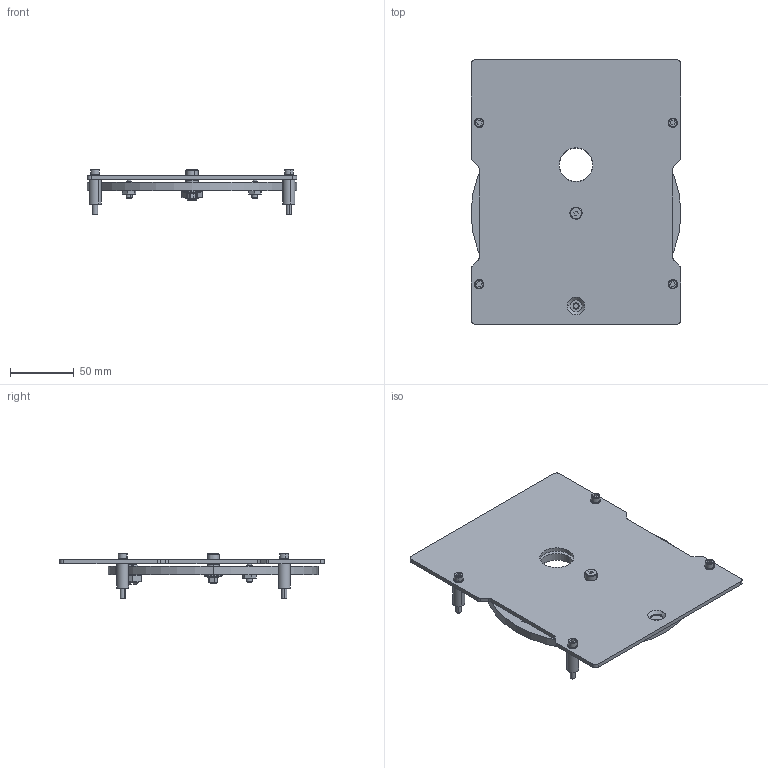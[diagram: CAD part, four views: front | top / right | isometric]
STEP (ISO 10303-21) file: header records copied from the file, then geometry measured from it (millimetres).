
FILE_DESCRIPTION (( 'STEP AP203' ), '1' );
FILE_NAME ('319-001-333_NC.STEP', '2014-09-04T22:27:50', ( '' ), ( '' ), 'SwSTEP 2.0', 'SolidWorks 2013', '' );
FILE_SCHEMA (( 'CONFIG_CONTROL_DESIGN' ));
Length unit declared in the file: inch
Products named in the file (1): 319-001-333_NC
Bounding box: 165.1 x 208.03 x 35.92 mm (x, y, z)
Volume: 233536.3 mm3; surface area: 125539.7 mm2
Topology: 30 solids, 30 shells, 610 faces, 1472 edges, 947 vertices
Faces by surface type: plane 278, cylinder 203, cone 66, bspline 57, torus 4, sphere 2
Entity records: 20773 total; most frequent: CARTESIAN_POINT 6515, ORIENTED_EDGE 2904, DIRECTION 2894, EDGE_CURVE 1452, AXIS2_PLACEMENT_3D 1050, VERTEX_POINT 945, VECTOR 794, LINE 794
